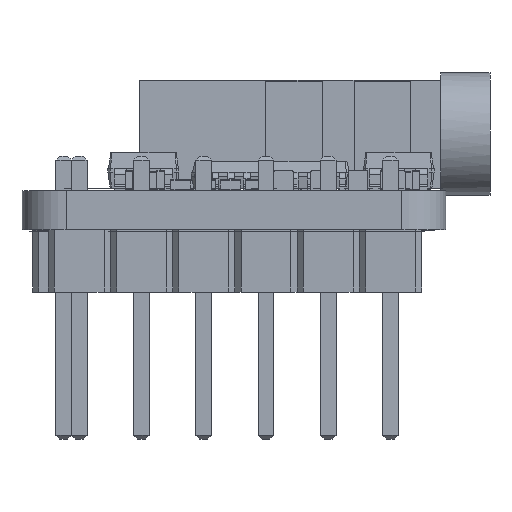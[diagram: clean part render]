
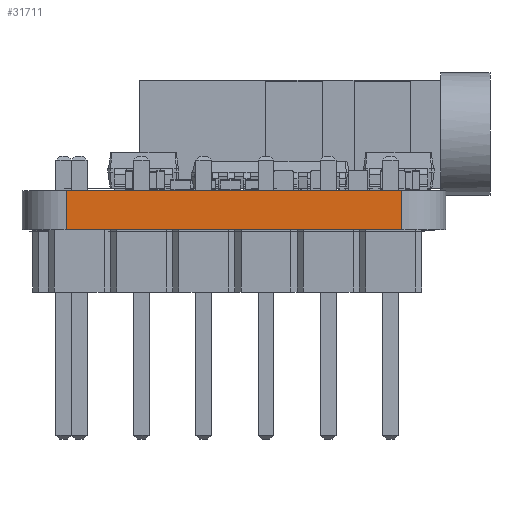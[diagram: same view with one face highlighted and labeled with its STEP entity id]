
A CAD part, left-side view. The second image highlights one B-rep face of the part: STEP entity #31711.
In plain terms, the highlighted planar face has unit normal (-1, 0, 0).
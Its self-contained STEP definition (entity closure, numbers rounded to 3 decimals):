
#31651 = EDGE_CURVE('',#31652,#31654,#31656,.T.);
#31652 = VERTEX_POINT('',#31653);
#31653 = CARTESIAN_POINT('',(133.07,-89.635,0.));
#31654 = VERTEX_POINT('',#31655);
#31655 = CARTESIAN_POINT('',(133.07,-89.635,-1.6));
#31656 = LINE('',#31657,#31658);
#31657 = CARTESIAN_POINT('',(133.07,-89.635,0.));
#31658 = VECTOR('',#31659,1.);
#31659 = DIRECTION('',(0.,0.,-1.));
#31711 = ADVANCED_FACE('',(#31712),#31737,.F.);
#31712 = FACE_BOUND('',#31713,.F.);
#31713 = EDGE_LOOP('',(#31714,#31724,#31730,#31731));
#31714 = ORIENTED_EDGE('',*,*,#31715,.T.);
#31715 = EDGE_CURVE('',#31716,#31718,#31720,.T.);
#31716 = VERTEX_POINT('',#31717);
#31717 = CARTESIAN_POINT('',(133.07,-103.335,0.));
#31718 = VERTEX_POINT('',#31719);
#31719 = CARTESIAN_POINT('',(133.07,-103.335,-1.6));
#31720 = LINE('',#31721,#31722);
#31721 = CARTESIAN_POINT('',(133.07,-103.335,0.));
#31722 = VECTOR('',#31723,1.);
#31723 = DIRECTION('',(0.,0.,-1.));
#31724 = ORIENTED_EDGE('',*,*,#31725,.T.);
#31725 = EDGE_CURVE('',#31718,#31654,#31726,.T.);
#31726 = LINE('',#31727,#31728);
#31727 = CARTESIAN_POINT('',(133.07,-103.335,-1.6));
#31728 = VECTOR('',#31729,1.);
#31729 = DIRECTION('',(0.,1.,0.));
#31730 = ORIENTED_EDGE('',*,*,#31651,.F.);
#31731 = ORIENTED_EDGE('',*,*,#31732,.F.);
#31732 = EDGE_CURVE('',#31716,#31652,#31733,.T.);
#31733 = LINE('',#31734,#31735);
#31734 = CARTESIAN_POINT('',(133.07,-103.335,0.));
#31735 = VECTOR('',#31736,1.);
#31736 = DIRECTION('',(0.,1.,0.));
#31737 = PLANE('',#31738);
#31738 = AXIS2_PLACEMENT_3D('',#31739,#31740,#31741);
#31739 = CARTESIAN_POINT('',(133.07,-103.335,0.));
#31740 = DIRECTION('',(1.,0.,0.));
#31741 = DIRECTION('',(0.,1.,0.));
